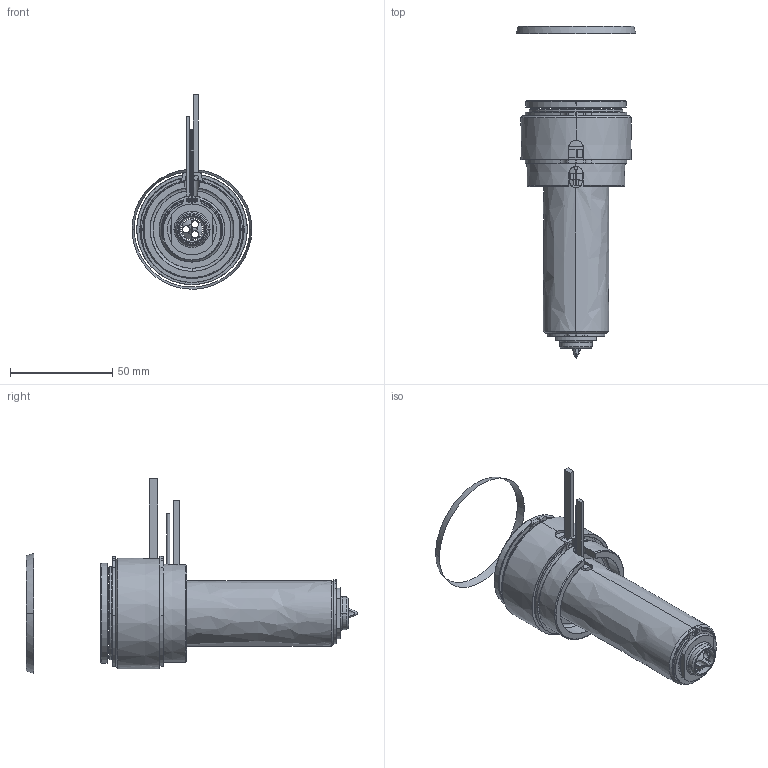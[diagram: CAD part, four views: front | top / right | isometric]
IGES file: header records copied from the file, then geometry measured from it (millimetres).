
Start section: SolidWorks IGES file using analytic representation for surfaces
Global section: file name: C:\Documents and Settings\ws-20\Desktop\TEM\UGEP5502-S-A-1 [Øf-0.80 ØC-13].IGS; native system: SolidWorks 2012; preprocessor: SolidWorks 2012; author: ws-20; date: 120427.081541; units: millimetre
Bounding box: 58.57 x 162.24 x 95.09 mm (x, y, z)
Surface area: 59267.5 mm2 (no closed solid volume)
Topology: 0 solids, 0 shells, 179 faces, 3612 edges, 3612 vertices
Faces by surface type: revolution 115, bspline 64
